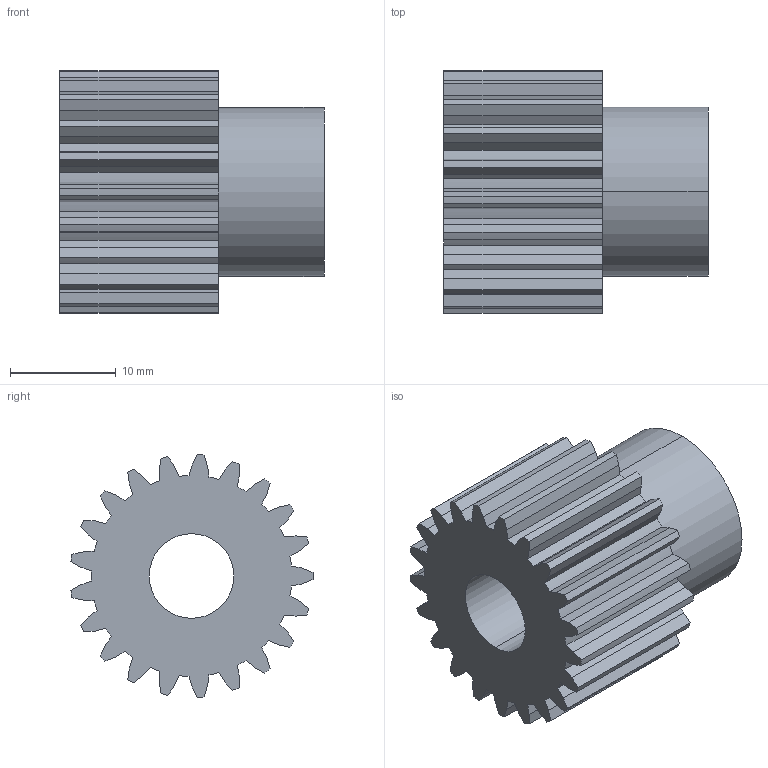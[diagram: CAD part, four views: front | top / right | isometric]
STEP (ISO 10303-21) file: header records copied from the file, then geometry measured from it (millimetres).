
FILE_DESCRIPTION (( 'STEP AP203' ), '1' );
FILE_NAME ('PM 26021.STEP', '2013-09-23T12:25:34', ( '' ), ( '' ), 'SwSTEP 2.0', 'SolidWorks 2010', '' );
FILE_SCHEMA (( 'CONFIG_CONTROL_DESIGN' ));
Length unit declared in the file: millimetre
Products named in the file (1): PM 26021
Bounding box: 25 x 22.92 x 22.98 mm (x, y, z)
Volume: 5876 mm3; surface area: 3570.6 mm2
Topology: 1 solids, 1 shells, 133 faces, 390 edges, 260 vertices
Faces by surface type: plane 87, cylinder 46
Entity records: 4499 total; most frequent: CARTESIAN_POINT 790, ORIENTED_EDGE 780, DIRECTION 748, EDGE_CURVE 390, LINE 296, VECTOR 296, VERTEX_POINT 260, AXIS2_PLACEMENT_3D 226
